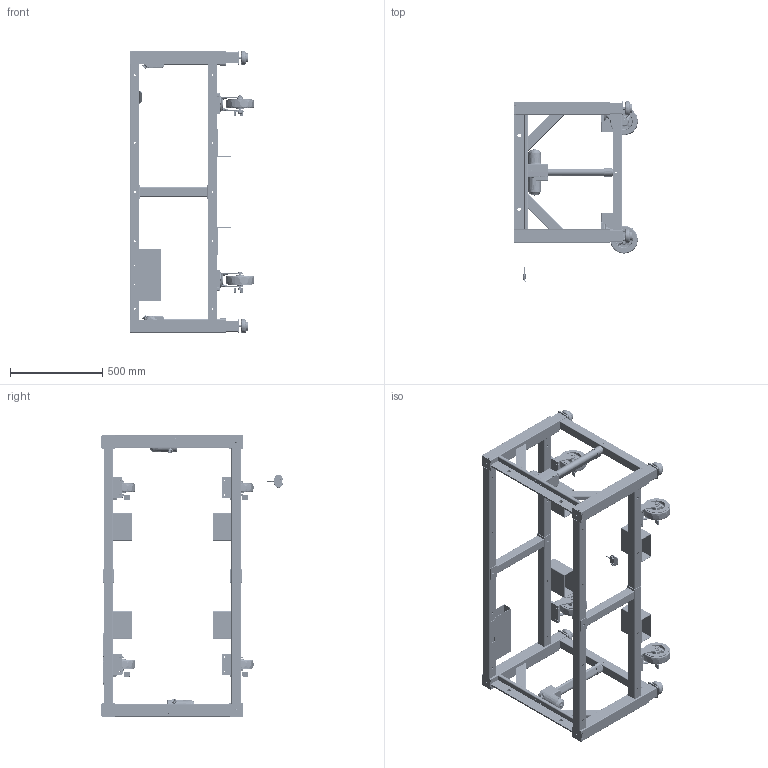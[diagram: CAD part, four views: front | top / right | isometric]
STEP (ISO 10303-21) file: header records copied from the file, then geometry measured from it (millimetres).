
FILE_DESCRIPTION (( 'STEP AP214' ), '1' );
FILE_NAME ('MB1200 60INX30INX26.5IN.STEP', '2020-01-21T12:35:12', ( '' ), ( '' ), 'SwSTEP 2.0', 'SolidWorks 2019', '' );
FILE_SCHEMA (( 'AUTOMOTIVE_DESIGN' ));
Length unit declared in the file: millimetre
Products named in the file (2): MB1200 60INX30INX26.5IN
Bounding box: 672.24 x 983.07 x 1530.2 mm (x, y, z)
Surface area: 8336742 mm2 (no closed solid volume)
Topology: 0 solids, 157 shells, 5670 faces, 15269 edges, 10037 vertices
Faces by surface type: plane 2896, cylinder 1630, bspline 654, cone 386, torus 92, sphere 12
Full cylindrical faces by diameter (mm): 1.575 x8, 1.778 x8, 3 x4, 3.3 x8, 4 x2, 4.039 x4, 4.2 x6, 4.252 x8, 4.5 x2, 4.521 x8, 4.6 x1, 4.762 x4, 4.763 x4, 5 x36, 6 x10, 6.35 x4, 6.4 x8, 6.647 x4, 6.8 x23, 7 x2, 7.117 x8, 7.5 x2, 7.937 x2, 7.938 x2, 8 x2, 8.5 x4, 9 x8, 9.525 x8, 9.7 x4, 10.3 x4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
Entity records: 294133 total; most frequent: CARTESIAN_POINT 97700, ORIENTED_EDGE 27884, DIRECTION 25007, EDGE_CURVE 14114, VERTEX_POINT 9707, AXIS2_PLACEMENT_3D 8695, VECTOR 7617, LINE 7617
